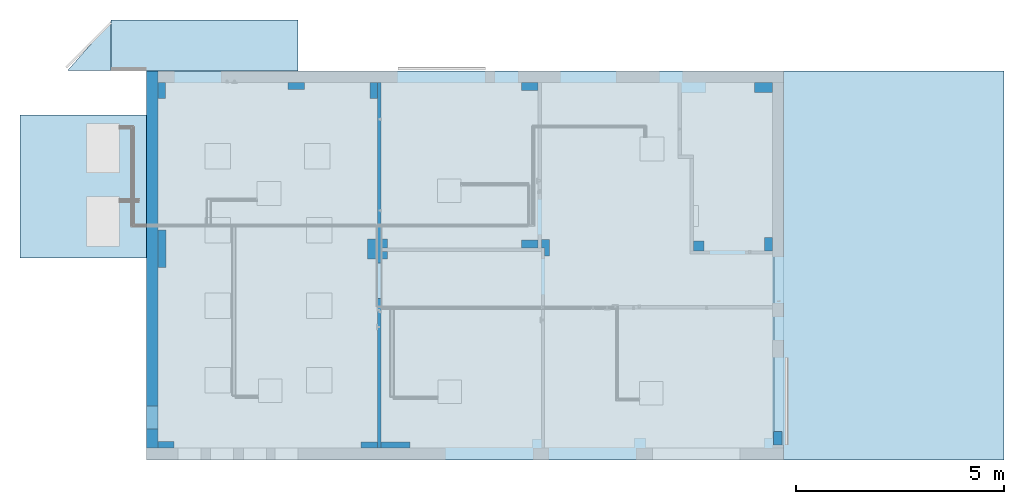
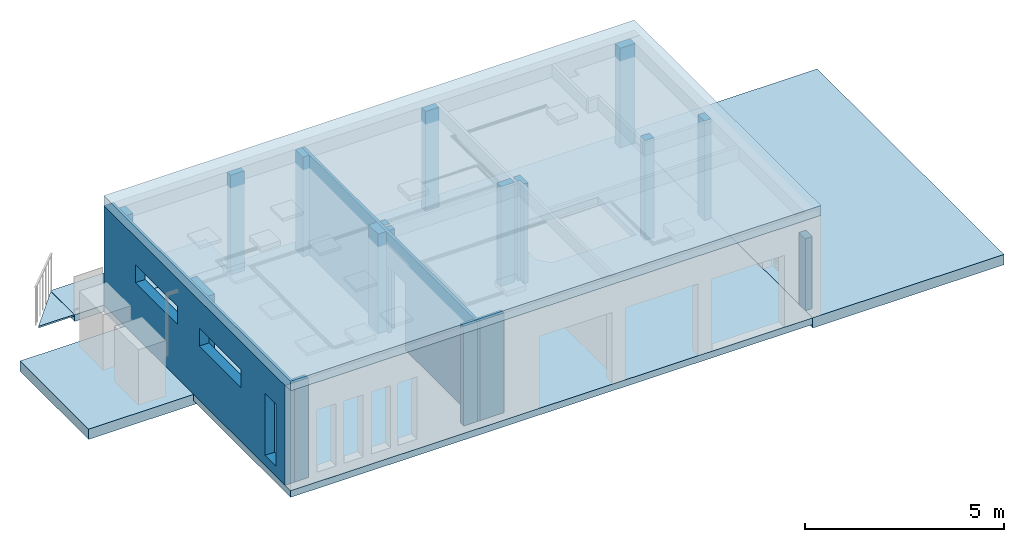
# One storey, part 1 of 22: 15 columns, 6 slabs, 2 walls, 5 openings, 1 element without a shape of its own.
"""IFC2X3 building model written with IfcOpenShell, lengths in millimetres."""

from ifc_helpers import new_model, entity, si_unit, converted_unit, derived_unit, direction, frame, frame_2d, origin, origin_2d_with_axis, place, context, subcontext, project, spatial, polyline, rectangle, outline, extrude, source, transform, mapped, material, layer, layer_set, layer_usage, type_object, type_shapes, element, aggregate, save


model = new_model("IFC2X3")

# Units and contexts
model_context = context("Model", 3, precision=0.01, world=origin(), true_north=direction((6.123031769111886e-17, 1.0)))
body_context = subcontext(model_context, "Body", "Model", "MODEL_VIEW")
ifc_project = project(units=[si_unit("LENGTHUNIT", "METRE", prefix="MILLI"), si_unit("AREAUNIT", "SQUARE_METRE"), si_unit("VOLUMEUNIT", "CUBIC_METRE"), converted_unit("PLANEANGLEUNIT", "DEGREE", entity("IfcRatioMeasure", 0.017453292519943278), si_unit("PLANEANGLEUNIT", "RADIAN"), dimensions=[0, 0, 0, 0, 0, 0, 0]), si_unit("MASSUNIT", "GRAM", prefix="KILO"), derived_unit("MASSDENSITYUNIT", [(si_unit("MASSUNIT", "GRAM", prefix="KILO"), 1), (si_unit("LENGTHUNIT", "METRE"), -3)]), derived_unit("MOMENTOFINERTIAUNIT", [(si_unit("LENGTHUNIT", "METRE"), 4)]), si_unit("TIMEUNIT", "SECOND"), si_unit("FREQUENCYUNIT", "HERTZ"), si_unit("THERMODYNAMICTEMPERATUREUNIT", "DEGREE_CELSIUS"), derived_unit("THERMALTRANSMITTANCEUNIT", [(si_unit("MASSUNIT", "GRAM", prefix="KILO"), 1), (si_unit("THERMODYNAMICTEMPERATUREUNIT", "KELVIN"), -1), (si_unit("TIMEUNIT", "SECOND"), -3)]), derived_unit("VOLUMETRICFLOWRATEUNIT", [(si_unit("LENGTHUNIT", "METRE"), 3), (si_unit("TIMEUNIT", "SECOND"), -1)]), derived_unit("MASSFLOWRATEUNIT", [(si_unit("MASSUNIT", "GRAM", prefix="KILO"), 1), (si_unit("TIMEUNIT", "SECOND"), -1)]), derived_unit("ROTATIONALFREQUENCYUNIT", [(si_unit("TIMEUNIT", "SECOND"), -1)]), si_unit("ELECTRICCURRENTUNIT", "AMPERE"), si_unit("ELECTRICVOLTAGEUNIT", "VOLT"), si_unit("POWERUNIT", "WATT"), si_unit("FORCEUNIT", "NEWTON", prefix="KILO"), si_unit("ILLUMINANCEUNIT", "LUX"), si_unit("LUMINOUSFLUXUNIT", "LUMEN"), si_unit("LUMINOUSINTENSITYUNIT", "CANDELA"), derived_unit("USERDEFINED", [(si_unit("MASSUNIT", "GRAM", prefix="KILO"), -1), (si_unit("LENGTHUNIT", "METRE"), -2), (si_unit("TIMEUNIT", "SECOND"), 3), (si_unit("LUMINOUSFLUXUNIT", "LUMEN"), 1)]), derived_unit("SOUNDPOWERUNIT", [(si_unit("MASSUNIT", "GRAM", prefix="KILO"), 1), (si_unit("LENGTHUNIT", "METRE"), 2), (si_unit("TIMEUNIT", "SECOND"), -3)]), derived_unit("SOUNDPRESSUREUNIT", [(si_unit("MASSUNIT", "GRAM", prefix="KILO"), 1), (si_unit("LENGTHUNIT", "METRE"), -1), (si_unit("TIMEUNIT", "SECOND"), -2)]), derived_unit("LINEARVELOCITYUNIT", [(si_unit("LENGTHUNIT", "METRE"), 1), (si_unit("TIMEUNIT", "SECOND"), -1)]), si_unit("PRESSUREUNIT", "PASCAL"), derived_unit("USERDEFINED", [(si_unit("LENGTHUNIT", "METRE"), -2), (si_unit("MASSUNIT", "GRAM", prefix="KILO"), 1), (si_unit("TIMEUNIT", "SECOND"), -2)]), derived_unit("LINEARFORCEUNIT", [(si_unit("MASSUNIT", "GRAM", prefix="KILO"), 1), (si_unit("LENGTHUNIT", "METRE"), 1), (si_unit("TIMEUNIT", "SECOND"), -2), (si_unit("LENGTHUNIT", "METRE"), -1)]), derived_unit("PLANARFORCEUNIT", [(si_unit("MASSUNIT", "GRAM", prefix="KILO"), 1), (si_unit("LENGTHUNIT", "METRE"), 1), (si_unit("TIMEUNIT", "SECOND"), -2), (si_unit("LENGTHUNIT", "METRE"), -2)])], contexts=[model_context])

# Site, building, storey
site_placement = place(None, origin())
site = spatial("IfcSite", under=ifc_project, at=site_placement, Name="Default", CompositionType="ELEMENT")
building_placement = place(site_placement, origin())
building = spatial("IfcBuilding", under=site, at=building_placement, CompositionType="ELEMENT")
storey_placement = place(building_placement, frame((0.0, 0.0, 3300.0)))
storey = spatial("IfcBuildingStorey", under=building, at=storey_placement, Name="Level 2", CompositionType="ELEMENT", Elevation=3299.99999999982)

# Columns
ifc_material_1 = material(Name="FIBRAN gyps SUPER")
column_type_1 = type_object("IfcColumnType", Name="M_Rectangular Column:475 x 475mm:475 x 475mm : M_Rectangular Column:475 x 475mm", PredefinedType="COLUMN", material=ifc_material_1)
shared_shape_1 = source(origin(), body_context, "Body", "SweptSolid", [
    extrude(rectangle(XDim=216.98853837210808, YDim=155.5000000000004, at=origin_2d_with_axis()), frame((-3697.60577874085, 1131.04310049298, 3300.0), z_axis=(0.0, 0.0, 1.0), x_axis=(0.0, -1.0, 0.0)), (0.0, 0.0, 1.0), 3050.000000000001),
    extrude(rectangle(XDim=475.00000000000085, YDim=237.50000000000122, at=origin_2d_with_axis()), frame((-3976.10577874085, 1002.03736967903, 3300.0), z_axis=(0.0, 0.0, 1.0), x_axis=(0.0, -1.0, 0.0)), (0.0, 0.0, 1.0), 3050.000000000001),
    extrude(rectangle(XDim=176.01146162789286, YDim=155.5000000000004, at=frame_2d((-6.394884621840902e-14, 0.0), x_axis=(1.0, 0.0))), frame((-3697.60577874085, 852.5431004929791, 3300.0), z_axis=(0.0, 0.0, 1.0), x_axis=(0.0, -1.0, 0.0)), (0.0, 0.0, 1.0), 3050.000000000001),
])
type_shapes(column_type_1, [shared_shape_1])
column_1_placement = place(storey_placement, frame((0.0, 0.0, -3300.0)))
element("IfcColumn", 1, at=column_1_placement, inside=storey, type_object=column_type_1, material=ifc_material_1, Name="M_Rectangular Column:475 x 475mm:475 x 475mm : M_Rectangular Column:475 x 475mm:475 x 475mm:475 x 475mm : M_Rectangular Column:475 x 475mm : M_Rectangular Column:475 x 475mm:475 x 475mm : M_Rectangular Column:475 x 475mm", ObjectType="M_Rectangular Column:475 x 475mm:475 x 475mm : M_Rectangular Column:475 x 475mm:475 x 475mm:475 x 475mm : M_Rectangular Column:475 x 475mm : M_Rectangular Column:475 x 475mm:475 x 475mm : M_Rectangular Column:475 x 475mm", context=body_context, shape_type="MappedRepresentation", body=[
    mapped(shared_shape_1, transform((0.0, 0.0, 0.0), scale=1.0)),
])
column_type_2 = type_object("IfcColumnType", Name="M_Rectangular Column:200 x 400mm 31895:200 x 400mm 31895 : M_Rectangular Column:200 x 400mm 31895", PredefinedType="COLUMN", material=ifc_material_1)
shared_shape_2 = source(origin(), body_context, "Body", "SweptSolid", [
    extrude(rectangle(XDim=317.87585641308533, YDim=200.0, at=frame_2d((2.7000623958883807e-13, 0.0), x_axis=(1.0, 0.0))), frame((5782.717793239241, -3556.90055852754, 3300.0), z_axis=(0.0, 0.0, 1.0), x_axis=(0.0, -1.0, 0.0)), (0.0, 0.0, 1.0), 2200.0),
])
type_shapes(column_type_2, [shared_shape_2])
column_2_placement = place(storey_placement, frame((0.0, 0.0, -3300.0)))
element("IfcColumn", 2, at=column_2_placement, inside=storey, type_object=column_type_2, material=ifc_material_1, Name="M_Rectangular Column:200 x 400mm", ObjectType="M_Rectangular Column:200 x 400mm", context=body_context, shape_type="MappedRepresentation", body=[
    mapped(shared_shape_2, transform((0.0, 0.0, 0.0), scale=1.0)),
])
column_type_3 = type_object("IfcColumnType", Name="M_Rectangular Column:200 x 400mm 31864:200 x 400mm 31864 : M_Rectangular Column:200 x 400mm 31864", PredefinedType="COLUMN", material=ifc_material_1)
shared_shape_3 = source(origin(), body_context, "Body", "SweptSolid", [
    extrude(rectangle(XDim=389.1241435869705, YDim=181.99999999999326, at=frame_2d((2.7000623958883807e-13, 0.0), x_axis=(1.0, 0.0))), frame((-9054.336523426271, 4816.59944147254, 3300.0), z_axis=(0.0, 0.0, 1.0), x_axis=(0.0, -1.0, 0.0)), (0.0, 0.0, 1.0), 3050.000000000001),
])
type_shapes(column_type_3, [shared_shape_3])
column_3_placement = place(storey_placement, frame((0.0, 0.0, -3300.0)))
element("IfcColumn", 3, at=column_3_placement, inside=storey, type_object=column_type_3, material=ifc_material_1, Name="M_Rectangular Column:200 x 400mm", ObjectType="M_Rectangular Column:200 x 400mm", context=body_context, shape_type="MappedRepresentation", body=[
    mapped(shared_shape_3, transform((0.0, 0.0, 0.0), scale=1.0)),
])
column_type_4 = type_object("IfcColumnType", Name="M_Rectangular Column:200 x 400mm 31833:200 x 400mm 31833 : M_Rectangular Column:200 x 400mm 31833", PredefinedType="COLUMN", material=ifc_material_1)
shared_shape_4 = source(origin(), body_context, "Body", "SweptSolid", [
    extrude(rectangle(XDim=161.99999999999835, YDim=391.9999999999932, at=frame_2d((2.7711166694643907e-13, 0.0), x_axis=(1.0, 0.0))), frame((-8949.33652342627, -3714.838486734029, 3300.0), z_axis=(0.0, 0.0, 1.0), x_axis=(0.0, -1.0, 0.0)), (0.0, 0.0, 1.0), 3050.000000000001),
])
type_shapes(column_type_4, [shared_shape_4])
column_4_placement = place(storey_placement, frame((0.0, 0.0, -3300.0)))
element("IfcColumn", 4, at=column_4_placement, inside=storey, type_object=column_type_4, material=ifc_material_1, Name="M_Rectangular Column:200 x 400mm", ObjectType="M_Rectangular Column:200 x 400mm", context=body_context, shape_type="MappedRepresentation", body=[
    mapped(shared_shape_4, transform((0.0, 0.0, 0.0), scale=1.0)),
])
column_type_5 = type_object("IfcColumnType", Name="M_Rectangular Column:200 x 400mm 31802:200 x 400mm 31802 : M_Rectangular Column:200 x 400mm 31802", PredefinedType="COLUMN", material=ifc_material_1)
shared_shape_5 = source(origin(), body_context, "Body", "SweptSolid", [
    extrude(rectangle(XDim=323.40929609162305, YDim=192.8132598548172, at=frame_2d((-5.684341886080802e-14, 0.0), x_axis=(1.0, 0.0))), frame((5556.962749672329, 1117.4727802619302, 3300.0), z_axis=(0.0, 0.0, 1.0), x_axis=(0.0, -1.0, 0.0)), (0.0, 0.0, 1.0), 3050.000000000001),
])
type_shapes(column_type_5, [shared_shape_5])
column_5_placement = place(storey_placement, frame((0.0, 0.0, -3300.0)))
element("IfcColumn", 5, at=column_5_placement, inside=storey, type_object=column_type_5, material=ifc_material_1, Name="M_Rectangular Column:200 x 400mm", ObjectType="M_Rectangular Column:200 x 400mm", context=body_context, shape_type="MappedRepresentation", body=[
    mapped(shared_shape_5, transform((0.0, 0.0, 0.0), scale=1.0)),
])
column_type_6 = type_object("IfcColumnType", Name="M_Rectangular Column:260 x 260mm:260 x 260mm : M_Rectangular Column:260 x 260mm", PredefinedType="COLUMN", material=ifc_material_1)
shared_shape_6 = source(origin(), body_context, "Body", "SweptSolid", [
    extrude(rectangle(XDim=238.40929609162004, YDim=255.81325985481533, at=frame_2d((0.0, -2.7000623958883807e-13), x_axis=(1.0, 0.0))), frame((3873.4627496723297, 1074.97278026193, 3300.0), z_axis=(0.0, 0.0, 1.0), x_axis=(0.0, -1.0, 0.0)), (0.0, 0.0, 1.0), 3050.000000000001),
])
type_shapes(column_type_6, [shared_shape_6])
column_6_placement = place(storey_placement, frame((0.0, 0.0, -3300.0)))
element("IfcColumn", 6, at=column_6_placement, inside=storey, type_object=column_type_6, material=ifc_material_1, Name="M_Rectangular Column:260 x 260mm", ObjectType="M_Rectangular Column:260 x 260mm", context=body_context, shape_type="MappedRepresentation", body=[
    mapped(shared_shape_6, transform((0.0, 0.0, 0.0), scale=1.0)),
])
column_type_7 = type_object("IfcColumnType", Name="M_Rectangular Column:475 x 475mm:475 x 475mm : M_Rectangular Column:475 x 475mm", PredefinedType="COLUMN", material=ifc_material_1)
shared_shape_7 = source(origin(), body_context, "Body", "SweptSolid", [
    extrude(rectangle(XDim=246.6241435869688, YDim=439.499999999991, at=frame_2d((5.400124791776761e-13, 0.0), x_axis=(1.0, 0.0))), frame((5433.61937959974, 4887.849441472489, 3300.0), z_axis=(0.0, 0.0, 1.0), x_axis=(0.0, -1.0, 0.0)), (0.0, 0.0, 1.0), 3050.000000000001),
])
type_shapes(column_type_7, [shared_shape_7])
column_7_placement = place(storey_placement, frame((0.0, 0.0, -3300.0)))
element("IfcColumn", 7, at=column_7_placement, inside=storey, type_object=column_type_7, material=ifc_material_1, Name="M_Rectangular Column:475 x 475mm", ObjectType="M_Rectangular Column:475 x 475mm", context=body_context, shape_type="MappedRepresentation", body=[
    mapped(shared_shape_7, transform((0.0, 0.0, 0.0), scale=1.0)),
])
column_type_8 = type_object("IfcColumnType", Name="M_Rectangular Column:200 x 400mm 31708:200 x 400mm 31708 : M_Rectangular Column:200 x 400mm 31708", PredefinedType="COLUMN", material=ifc_material_1)
shared_shape_8 = source(origin(), body_context, "Body", "SweptSolid", [
    extrude(rectangle(XDim=169.124143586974, YDim=400.0, at=frame_2d((-2.7000623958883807e-13, 0.0), x_axis=(1.0, 0.0))), frame((-5817.35577874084, 4926.59944147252, 3300.0), z_axis=(0.0, 0.0, 1.0), x_axis=(0.0, -1.0, 0.0)), (0.0, 0.0, 1.0), 3050.000000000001),
])
type_shapes(column_type_8, [shared_shape_8])
column_8_placement = place(storey_placement, frame((0.0, 0.0, -3300.0)))
element("IfcColumn", 8, at=column_8_placement, inside=storey, type_object=column_type_8, material=ifc_material_1, Name="M_Rectangular Column:200 x 400mm", ObjectType="M_Rectangular Column:200 x 400mm", context=body_context, shape_type="MappedRepresentation", body=[
    mapped(shared_shape_8, transform((0.0, 0.0, 0.0), scale=1.0)),
])
ifc_material_2 = material(Name="PAINT inside 31636")
column_type_9 = type_object("IfcColumnType", Name="M_Rectangular Column:My toixio 300 x 900:My toixio 300 x 900 : M_Rectangular Column:My toixio 300 x 900", PredefinedType="COLUMN", material=ifc_material_2)
shared_shape_9 = source(origin(), body_context, "Body", "SweptSolid", [
    extrude(rectangle(XDim=900.0000000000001, YDim=191.99999999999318, at=origin_2d_with_axis()), frame((-9049.33652342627, 1002.5488313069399, 3300.0), z_axis=(0.0, 0.0, 1.0), x_axis=(0.0, -1.0, 0.0)), (0.0, 0.0, 1.0), 3050.000000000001),
])
type_shapes(column_type_9, [shared_shape_9])
column_9_placement = place(storey_placement, frame((0.0, 0.0, -3300.0)))
element("IfcColumn", 9, at=column_9_placement, inside=storey, type_object=column_type_9, material=ifc_material_2, Name="M_Rectangular Column:My toixio 300 x 900", ObjectType="M_Rectangular Column:My toixio 300 x 900", context=body_context, shape_type="MappedRepresentation", body=[
    mapped(shared_shape_9, transform((0.0, 0.0, 0.0), scale=1.0)),
])
column_type_10 = type_object("IfcColumnType", Name="M_Rectangular Column:My toixio 200x700 mm:My toixio 200x700 mm : M_Rectangular Column:My toixio 200x700 mm", PredefinedType="COLUMN", material=ifc_material_2)
shared_shape_10 = source(origin(), body_context, "Body", "SweptSolid", [
    extrude(rectangle(XDim=149.1914492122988, YDim=695.9674297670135, at=origin_2d_with_axis()), frame((-3427.3720638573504, -3721.2427621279, 3300.0), z_axis=(0.0, 0.0, 1.0), x_axis=(0.0, -1.0, 0.0)), (0.0, 0.0, 1.0), 3050.000000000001),
])
type_shapes(column_type_10, [shared_shape_10])
column_10_placement = place(storey_placement, frame((0.0, 0.0, -3300.0)))
element("IfcColumn", 10, at=column_10_placement, inside=storey, type_object=column_type_10, material=ifc_material_2, Name="M_Rectangular Column:My toixio 200x700 mm", ObjectType="M_Rectangular Column:My toixio 200x700 mm", context=body_context, shape_type="MappedRepresentation", body=[
    mapped(shared_shape_10, transform((0.0, 0.0, 0.0), scale=1.0)),
])
column_type_11 = type_object("IfcColumnType", Name="M_Rectangular Column:200 x 400mm 31604:200 x 400mm 31604 : M_Rectangular Column:200 x 400mm 31604", PredefinedType="COLUMN", material=ifc_material_1)
shared_shape_11 = source(origin(), body_context, "Body", "SweptSolid", [
    extrude(rectangle(XDim=149.19144921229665, YDim=394.999999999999, at=origin_2d_with_axis()), frame((-4054.855778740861, -3721.2427621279, 3300.0), z_axis=(0.0, 0.0, 1.0), x_axis=(0.0, -1.0, 0.0)), (0.0, 0.0, 1.0), 3050.000000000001),
])
type_shapes(column_type_11, [shared_shape_11])
column_11_placement = place(storey_placement, frame((0.0, 0.0, -3300.0)))
element("IfcColumn", 11, at=column_11_placement, inside=storey, type_object=column_type_11, material=ifc_material_1, Name="M_Rectangular Column:200 x 400mm", ObjectType="M_Rectangular Column:200 x 400mm", context=body_context, shape_type="MappedRepresentation", body=[
    mapped(shared_shape_11, transform((0.0, 0.0, 0.0), scale=1.0)),
])
column_type_12 = type_object("IfcColumnType", Name="M_Rectangular Column:200 x 400mm 31573:200 x 400mm 31573 : M_Rectangular Column:200 x 400mm 31573", PredefinedType="COLUMN", material=ifc_material_1)
shared_shape_12 = source(origin(), body_context, "Body", "SweptSolid", [
    extrude(rectangle(XDim=389.12414358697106, YDim=185.98074468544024, at=frame_2d((0.0, -2.7000623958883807e-13), x_axis=(1.0, 0.0))), frame((-3950.34615108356, 4816.59944147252, 3300.0), z_axis=(0.0, 0.0, 1.0), x_axis=(0.0, -1.0, 0.0)), (0.0, 0.0, 1.0), 3050.000000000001),
])
type_shapes(column_type_12, [shared_shape_12])
column_12_placement = place(storey_placement, frame((0.0, 0.0, -3300.0)))
element("IfcColumn", 12, at=column_12_placement, inside=storey, type_object=column_type_12, material=ifc_material_1, Name="M_Rectangular Column:200 x 400mm", ObjectType="M_Rectangular Column:200 x 400mm", context=body_context, shape_type="MappedRepresentation", body=[
    mapped(shared_shape_12, transform((0.0, 0.0, 0.0), scale=1.0)),
])
column_type_13 = type_object("IfcColumnType", Name="M_Rectangular Column:200 x 400mm 31542:200 x 400mm 31542 : M_Rectangular Column:200 x 400mm 31542", PredefinedType="COLUMN", material=ifc_material_1)
shared_shape_13 = source(origin(), body_context, "Body", "SweptSolid", [
    extrude(rectangle(XDim=199.1241435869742, YDim=390.0, at=origin_2d_with_axis()), frame((-191.388348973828, 4911.59944147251, 3300.0), z_axis=(0.0, 0.0, 1.0), x_axis=(0.0, -1.0, 0.0)), (0.0, 0.0, 1.0), 3050.000000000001),
])
type_shapes(column_type_13, [shared_shape_13])
column_13_placement = place(storey_placement, frame((0.0, 0.0, -3300.0)))
element("IfcColumn", 13, at=column_13_placement, inside=storey, type_object=column_type_13, material=ifc_material_1, Name="M_Rectangular Column:200 x 400mm", ObjectType="M_Rectangular Column:200 x 400mm", context=body_context, shape_type="MappedRepresentation", body=[
    mapped(shared_shape_13, transform((0.0, 0.0, 0.0), scale=1.0)),
])
column_type_14 = type_object("IfcColumnType", Name="M_Rectangular Column:200 x 400mm 31511:200 x 400mm 31511 : M_Rectangular Column:200 x 400mm 31511", PredefinedType="COLUMN", material=ifc_material_1)
shared_shape_14 = source(origin(), body_context, "Body", "SweptSolid", [
    extrude(rectangle(XDim=199.48853837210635, YDim=389.99999999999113, at=frame_2d((1.3500311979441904e-13, -2.842170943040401e-14), x_axis=(1.0, 0.0))), frame((-191.388348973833, 1122.2931004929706, 3300.0), z_axis=(0.0, 0.0, 1.0), x_axis=(0.0, -1.0, 0.0)), (0.0, 0.0, 1.0), 3050.000000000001),
])
type_shapes(column_type_14, [shared_shape_14])
column_14_placement = place(storey_placement, frame((0.0, 0.0, -3300.0)))
element("IfcColumn", 14, at=column_14_placement, inside=storey, type_object=column_type_14, material=ifc_material_1, Name="M_Rectangular Column:200 x 400mm", ObjectType="M_Rectangular Column:200 x 400mm", context=body_context, shape_type="MappedRepresentation", body=[
    mapped(shared_shape_14, transform((0.0, 0.0, 0.0), scale=1.0)),
])
column_type_15 = type_object("IfcColumnType", Name="M_Rectangular Column:200 x 400mm:200 x 400mm : M_Rectangular Column:200 x 400mm", PredefinedType="COLUMN", material=ifc_material_1)
shared_shape_15 = source(origin(), body_context, "Body", "SweptSolid", [
    extrude(outline(polyline([(-203.3333333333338, -93.66666666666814), (6.666666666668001, -93.66666666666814), (6.666666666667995, -12.666666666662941), (196.66666666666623, -12.666666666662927), (196.66666666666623, 106.33333333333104), (-203.3333333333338, 106.333333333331), (-203.3333333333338, -93.66666666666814)])), frame((180.27831769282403, 1029.2154979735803, 3300.0), z_axis=(0.0, 0.0, 1.0), x_axis=(0.0, -1.0, 0.0)), (0.0, 0.0, 1.0), 3050.000000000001),
])
type_shapes(column_type_15, [shared_shape_15])
column_15_placement = place(storey_placement, frame((0.0, 0.0, -3300.0)))
element("IfcColumn", 15, at=column_15_placement, inside=storey, type_object=column_type_15, material=ifc_material_1, Name="M_Rectangular Column:200 x 400mm", ObjectType="M_Rectangular Column:200 x 400mm", context=body_context, shape_type="MappedRepresentation", body=[
    mapped(shared_shape_15, transform((0.0, 0.0, 0.0), scale=1.0)),
])

# Roof, slab
ifc_material_3 = material(Name="ashpalt waterproofing membrane (SBS)")
roof_placement = place(storey_placement, origin())
roof = element("IfcRoof", 16, at=roof_placement, inside=storey, material=ifc_material_3, Name="Basic Roof:Cold Roof - MY Roof:Cold Roof - MY Roof : Basic Roof:Cold Roof - MY Roof:1:Cold Roof - MY Roof:Cold Roof - MY Roof : Basic Roof:Cold Roof - MY Roof:1 : Basic Roof:Cold Roof - MY Roof:Cold Roof - MY Roof : Basic Roof:Cold Roof - MY Roof:1", ObjectType="Basic Roof:Cold Roof - MY Roof:Cold Roof - MY Roof : Basic Roof:Cold Roof - MY Roof:1:Cold Roof - MY Roof:Cold Roof - MY Roof : Basic Roof:Cold Roof - MY Roof:1 : Basic Roof:Cold Roof - MY Roof:Cold Roof - MY Roof : Basic Roof:Cold Roof - MY Roof:1", ShapeType="NOTDEFINED")
slab_type_1 = type_object("IfcSlabType", Name="Basic Roof:Cold Roof - MY Roof:Cold Roof - MY Roof : Basic Roof:Cold Roof - MY Roof:1", PredefinedType="ROOF")
slab_1_placement = place(storey_placement, origin())
slab_1 = element("IfcSlab", 17, at=slab_1_placement, type_object=slab_type_1, Name="Basic Roof:Cold Roof - MY Roof:Cold Roof - MY Roof : Basic Roof:Cold Roof - MY Roof:1:Cold Roof - MY Roof:Cold Roof - MY Roof : Basic Roof:Cold Roof - MY Roof:1 : Basic Roof:Cold Roof - MY Roof:Cold Roof - MY Roof : Basic Roof:Cold Roof - MY Roof:1:1", ObjectType="Basic Roof:Cold Roof - MY Roof:Cold Roof - MY Roof : Basic Roof:Cold Roof - MY Roof:1:Cold Roof - MY Roof:Cold Roof - MY Roof : Basic Roof:Cold Roof - MY Roof:1 : Basic Roof:Cold Roof - MY Roof:Cold Roof - MY Roof : Basic Roof:Cold Roof - MY Roof:1", PredefinedType="ROOF", context=body_context, shape_type="SweptSolid", body=[
    extrude(rectangle(XDim=15358.705903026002, YDim=9367.00000000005, at=frame_2d((1.3642420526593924e-12, 0.0), x_axis=(1.0, 0.0))), frame((-1745.9835719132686, 607.6615132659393, 3050.0), z_axis=(0.0, 0.0, 1.0), x_axis=(-1.0, 0.0, 0.0)), (0.0, 0.0, 1.0), 300.0),
])
aggregate(roof, [slab_1])

# Slab, opening
ifc_material_4 = material(Name="Ceramic tiles")
ifc_layer_1 = layer(ifc_material_4, 5.0)
ifc_material_5 = material(Name="cement mortar")
ifc_layer_2 = layer(ifc_material_5, 50.0)
ifc_material_6 = material(Name="Reinforced Concrete 2%")
ifc_layer_3 = layer(ifc_material_6, 150.0)
ifc_layer_set_1 = layer_set([ifc_layer_1, ifc_layer_2, ifc_layer_3], Name="Floor:Floor:Floor:My first floor")
ifc_layer_usage_1 = layer_usage(ifc_layer_set_1, "AXIS3", "POSITIVE", 0.0)
slab_type_2 = type_object("IfcSlabType", Name="Floor:Floor:Floor:My first floor", PredefinedType="FLOOR", material=ifc_layer_set_1)
slab_2_placement = place(storey_placement, frame((-9425.336523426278, -4075.8384867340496, -205.0)))
slab_2 = element("IfcSlab", 18, at=slab_2_placement, inside=storey, type_object=slab_type_2, material=ifc_layer_usage_1, Name="Floor:Floor:Floor:My first floor", ObjectType="Floor:Floor:Floor:My first floor", PredefinedType="FLOOR", context=body_context, shape_type="SweptSolid", body=[
    extrude(outline(polyline([(7556.527158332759, -4683.50000000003), (7556.527158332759, 177.49999999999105), (7356.527158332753, 177.49999999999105), (7356.527158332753, 3621.0155383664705), (7556.527158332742, 3621.0155383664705), (7556.527158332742, 4683.50000000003), (-7556.527158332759, 4683.50000000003), (-7556.527158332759, -4683.50000000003), (7556.527158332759, -4683.50000000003)])), frame((7556.527158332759, 4683.50000000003, 205.0), z_axis=(0.0, 0.0, -1.0), x_axis=(-1.0, 0.0, 0.0)), (0.0, 0.0, 1.0), 204.99999999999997),
])
opening_1_placement = place(slab_2_placement, frame((11523.090328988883, 6181.357011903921, 205.0)))
element("IfcOpeningElement", 19, at=opening_1_placement, cuts=slab_2, Name="Floor:Floor:Floor:My first floor:2", ObjectType="Opening", context=body_context, shape_type="SweptSolid", body=[
    extrude(outline(polyline([(-511.34419550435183, -1134.170472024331), (1078.658903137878, -1134.170472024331), (1078.658903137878, 1565.8023141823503), (-822.9868053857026, 1565.8023141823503), (-822.9868053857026, -863.2636843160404), (-511.34419550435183, -1134.170472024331)])), frame((0.0, 0.0, 0.0), z_axis=(0.0, 0.0, -1.0), x_axis=(0.0, 1.0, 0.0)), (0.0, 0.0, 1.0), 204.99999999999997),
])

# Slabs
ifc_layer_4 = layer(ifc_material_4, 5.0)
ifc_material_7 = material(Name="unreinforced concrete (gross beton) (C12/15)")
ifc_layer_5 = layer(ifc_material_7, 50.0)
ifc_layer_6 = layer(ifc_material_6, 150.0)
ifc_material_8 = material(Name="Air")
ifc_layer_7 = layer(ifc_material_8, 10.0)
ifc_material_9 = material(Name="FIBRAN GEO B-570")
ifc_layer_8 = layer(ifc_material_9, 100.0)
ifc_layer_set_2 = layer_set([ifc_layer_4, ifc_layer_5, ifc_layer_6, ifc_layer_7, ifc_layer_8], Name="Floor:Floor:Floor:My first floor with insulation")
ifc_layer_usage_2 = layer_usage(ifc_layer_set_2, "AXIS3", "POSITIVE", 0.0)
slab_type_3 = type_object("IfcSlabType", Name="Floor:Floor:Floor:My first floor with insulation", PredefinedType="FLOOR", material=ifc_layer_set_2)
slab_3_placement = place(storey_placement, origin())
element("IfcSlab", 20, at=slab_3_placement, inside=storey, type_object=slab_type_3, material=ifc_layer_usage_2, Name="Floor:Floor:Floor:My first floor with insulation", ObjectType="Floor:Floor:Floor:My first floor with insulation", PredefinedType="FLOOR", context=body_context, shape_type="SweptSolid", body=[
    extrude(rectangle(XDim=9367.00000000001, YDim=5539.6220389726, at=origin_2d_with_axis()), frame((8457.52881272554, 607.661513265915, 0.0), z_axis=(0.0, 0.0, -1.0), x_axis=(0.0, 1.0, 0.0)), (0.0, 0.0, 1.0), 314.9999999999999),
])
ifc_layer_usage_3 = layer_usage(ifc_layer_set_2, "AXIS3", "POSITIVE", 0.0)
slab_type_4 = type_object("IfcSlabType", Name="Floor:Floor:Floor:My first floor with insulation", PredefinedType="FLOOR", material=ifc_layer_set_2)
slab_4_placement = place(storey_placement, origin())
element("IfcSlab", 21, at=slab_4_placement, inside=storey, type_object=slab_type_4, material=ifc_layer_usage_3, Name="Floor:Floor:Floor:My first floor with insulation", ObjectType="Floor:Floor:Floor:My first floor with insulation", PredefinedType="FLOOR", context=body_context, shape_type="SweptSolid", body=[
    extrude(rectangle(XDim=3443.5155383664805, YDim=3240.0492740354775, at=frame_2d((0.0, 4.547473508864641e-13), x_axis=(1.0, 0.0))), frame((-10845.361160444, 2506.91928244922, 0.0), z_axis=(0.0, 0.0, -1.0), x_axis=(0.0, 1.0, 0.0)), (0.0, 0.0, 1.0), 314.9999999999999),
])
ifc_layer_usage_4 = layer_usage(ifc_layer_set_1, "AXIS3", "POSITIVE", 0.0)
slab_type_5 = type_object("IfcSlabType", Name="Floor:Floor:Floor:My first floor", PredefinedType="FLOOR", material=ifc_layer_set_1)
slab_5_placement = place(storey_placement, origin())
element("IfcSlab", 22, at=slab_5_placement, inside=storey, type_object=slab_type_5, material=ifc_layer_usage_4, Name="Floor:Floor:Floor:My first floor", ObjectType="Floor:Floor:Floor:My first floor", PredefinedType="FLOOR", context=body_context, shape_type="SweptSolid", body=[
    extrude(rectangle(XDim=1222.0121029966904, YDim=4500.000000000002, at=frame_2d((5.684341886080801e-13, 0.0), x_axis=(1.0, 0.0))), frame((-8020.606903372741, 5902.167564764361, 0.0), z_axis=(0.0, 0.0, -1.0), x_axis=(0.0, 1.0, 0.0)), (0.0, 0.0, 1.0), 204.99999999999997),
])
ifc_material_10 = material(Name="Exterior Tread Stair")
ifc_layer_9 = layer(ifc_material_10, 50.0)
ifc_layer_set_3 = layer_set([ifc_layer_9], Name="Floor:Floor:Floor:My metal deck floor")
ifc_layer_usage_5 = layer_usage(ifc_layer_set_3, "AXIS3", "POSITIVE", 0.0)
slab_type_6 = type_object("IfcSlabType", Name="Floor:Floor:Floor:My metal deck floor", PredefinedType="FLOOR", material=ifc_layer_set_3)
slab_6_placement = place(storey_placement, origin())
element("IfcSlab", 23, at=slab_6_placement, inside=storey, type_object=slab_type_6, material=ifc_layer_usage_5, Name="Floor:Floor:Floor:My metal deck floor", ObjectType="Floor:Floor:Floor:My metal deck floor", PredefinedType="FLOOR", context=body_context, shape_type="SweptSolid", body=[
    extrude(outline(polyline([(-345.8362422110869, -392.3288981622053), (691.6724844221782, -392.3288981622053), (-345.8362422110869, 784.6577963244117), (-345.8362422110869, -392.3288981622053)])), frame((-10621.642794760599, 5695.576137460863, 0.0), z_axis=(0.0, 0.0, -1.0), x_axis=(-1.0, 0.0, 0.0)), (0.0, 0.0, 1.0), 50.0),
])

# Wall, openings
ifc_material_11 = material(Name="Finishing Coating")
ifc_layer_10 = layer(ifc_material_11, 10.0)
ifc_layer_11 = layer(ifc_material_11, 10.0)
ifc_material_12 = material(Name="FIBRAN GEO BP Etics")
ifc_layer_12 = layer(ifc_material_12, 160.0)
ifc_material_13 = material(Name="Lightweight Perlite Concrete")
ifc_layer_13 = layer(ifc_material_13, 90.0)
ifc_layer_14 = layer(ifc_material_11, 10.0)
ifc_layer_set_4 = layer_set([ifc_layer_10, ifc_layer_11, ifc_layer_12, ifc_layer_13, ifc_layer_14], Name="Basic Wall:Basic Wall:Basic Wall:My exterior wall 280mm")
ifc_layer_usage_6 = layer_usage(ifc_layer_set_4, "AXIS2", "NEGATIVE", 140.0)
wall_type_1 = type_object("IfcWallType", Name="Basic Wall:Basic Wall:Basic Wall:My exterior wall 280mm", PredefinedType="STANDARD", material=ifc_layer_set_4)
wall_1_placement = place(storey_placement, frame((-9285.33652342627, -3795.83848673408, 0.0), z_axis=(0.0, 0.0, 1.0), x_axis=(0.0, 1.0, 0.0)))
wall_1 = element("IfcWallStandardCase", 24, at=wall_1_placement, inside=storey, type_object=wall_type_1, material=ifc_layer_usage_6, Name="Basic Wall:My exterior wall 280mm", ObjectType="Basic Wall:My exterior wall 280mm", context=body_context, shape_type="SweptSolid", body=[
    extrude(rectangle(XDim=9087.0000000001, YDim=280.0000000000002, at=frame_2d((4543.50000000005, -5.400124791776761e-13), x_axis=(-1.0, 0.0))), origin(), (0.0, 0.0, 1.0), 3050.000000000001),
])
opening_2_placement = place(wall_1_placement, origin())
element("IfcOpeningElement", 25, at=opening_2_placement, cuts=wall_1, Name="Basic Wall:My exterior wall 280mm", ObjectType="Opening", context=body_context, shape_type="SweptSolid", body=[
    extrude(rectangle(XDim=1900.0000000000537, YDim=550.0, at=frame_2d((2.8421709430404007e-13, 2.5579538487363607e-13), x_axis=(1.0, 0.0))), frame((735.0, -140.0, 1250.0), z_axis=(0.0, 1.0, 0.0), x_axis=(0.0, 0.0, -1.0)), (0.0, 0.0, 1.0), 279.99999999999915),
])
opening_3_placement = place(wall_1_placement, origin())
element("IfcOpeningElement", 26, at=opening_3_placement, cuts=wall_1, Name="Basic Wall:My exterior wall 280mm", ObjectType="Opening", context=body_context, shape_type="SweptSolid", body=[
    extrude(rectangle(XDim=550.0000000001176, YDim=2100.0, at=origin_2d_with_axis()), frame((3250.1044997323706, -140.0, 1925.0), z_axis=(0.0, 1.0, 0.0), x_axis=(0.0, 0.0, -1.0)), (0.0, 0.0, 1.0), 279.99999999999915),
])
opening_4_placement = place(wall_1_placement, origin())
element("IfcOpeningElement", 27, at=opening_4_placement, cuts=wall_1, Name="Basic Wall:My exterior wall 280mm", ObjectType="Opening", context=body_context, shape_type="SweptSolid", body=[
    extrude(rectangle(XDim=550.0000000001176, YDim=2099.999999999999, at=origin_2d_with_axis()), frame((6450.104499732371, -140.0, 1925.0), z_axis=(0.0, 1.0, 0.0), x_axis=(0.0, 0.0, -1.0)), (0.0, 0.0, 1.0), 279.99999999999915),
])

# Wall, opening
ifc_material_14 = material(Name="Steel, Paint Finish, Ivory, Matte")
ifc_layer_15 = layer(ifc_material_14, 1.0)
ifc_layer_16 = layer(ifc_material_1, 15.0)
ifc_layer_17 = layer(ifc_material_9, 50.0)
ifc_layer_18 = layer(ifc_material_1, 15.0)
ifc_layer_19 = layer(ifc_material_14, 1.0)
ifc_layer_set_5 = layer_set([ifc_layer_15, ifc_layer_16, ifc_layer_17, ifc_layer_18, ifc_layer_19], Name="Basic Wall:Basic Wall:Basic Wall:My interior wall 80mm")
ifc_layer_usage_7 = layer_usage(ifc_layer_set_5, "AXIS2", "NEGATIVE", 40.99999999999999)
wall_type_2 = type_object("IfcWallType", Name="Basic Wall:Basic Wall:Basic Wall:My interior wall 80mm", PredefinedType="STANDARD", material=ifc_layer_set_5)
wall_2_placement = place(storey_placement, frame((-3816.35577874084, 5011.161513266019, 0.0), z_axis=(0.0, 0.0, 1.0), x_axis=(0.0, -1.0, 0.0)))
wall_2 = element("IfcWallStandardCase", 28, at=wall_2_placement, inside=storey, type_object=wall_type_2, material=ifc_layer_usage_7, Name="Basic Wall:My interior wall 80mm", ObjectType="Basic Wall:My interior wall 80mm", context=body_context, shape_type="SweptSolid", body=[
    extrude(rectangle(XDim=8807.000000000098, YDim=81.99999999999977, at=frame_2d((4403.500000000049, 0.0), x_axis=(1.0, 0.0))), origin(), (0.0, 0.0, 1.0), 3050.000000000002),
])
opening_5_placement = place(wall_2_placement, origin())
element("IfcOpeningElement", 29, at=opening_5_placement, cuts=wall_2, Name="Basic Wall:My interior wall 80mm", ObjectType="Opening", context=body_context, shape_type="SweptSolid", body=[
    extrude(rectangle(XDim=2024.9999999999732, YDim=849.9999999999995, at=frame_2d((2.8421709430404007e-13, 0.0), x_axis=(1.0, 0.0))), frame((4775.558361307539, -41.0, 1012.4999999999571), z_axis=(0.0, 1.0, 0.0), x_axis=(0.0, 0.0, -1.0)), (0.0, 0.0, 1.0), 81.99999999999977),
])

save(model, "model.ifc")
